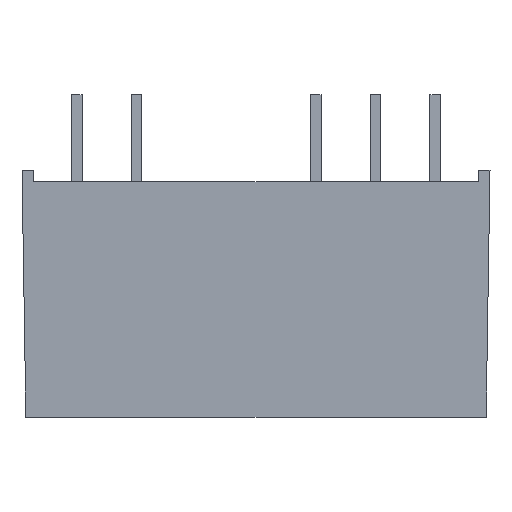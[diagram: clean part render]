
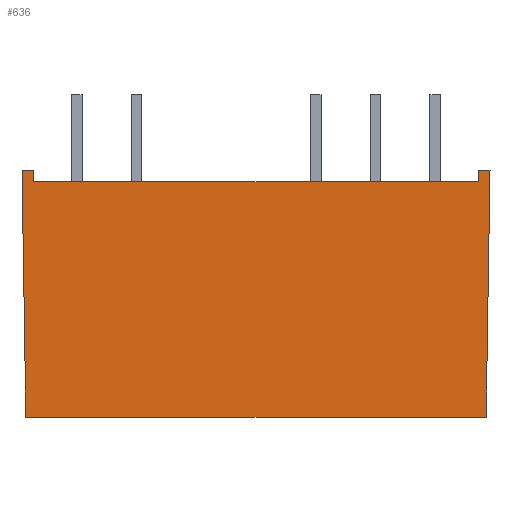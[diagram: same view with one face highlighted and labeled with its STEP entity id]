
A CAD part, front view. The second image highlights one B-rep face of the part: STEP entity #636.
In plain terms, the highlighted planar face has unit normal (0, -1, -0.016).
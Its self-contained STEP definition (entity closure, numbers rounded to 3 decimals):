
#50=FACE_OUTER_BOUND('',#90,.T.);
#90=EDGE_LOOP('',(#543,#544,#545,#546,#547,#548,#549,#550));
#158=LINE('',#968,#242);
#161=LINE('',#974,#245);
#162=LINE('',#977,#246);
#167=LINE('',#986,#251);
#168=LINE('',#989,#252);
#171=LINE('',#995,#255);
#172=LINE('',#997,#256);
#173=LINE('',#998,#257);
#242=VECTOR('',#795,18.884);
#245=VECTOR('',#800,0.5);
#246=VECTOR('',#803,0.5);
#251=VECTOR('',#810,0.5);
#252=VECTOR('',#813,0.5);
#255=VECTOR('',#818,10.503);
#256=VECTOR('',#819,19.57);
#257=VECTOR('',#820,10.503);
#303=VERTEX_POINT('',#961);
#306=VERTEX_POINT('',#966);
#308=VERTEX_POINT('',#972);
#309=VERTEX_POINT('',#976);
#312=VERTEX_POINT('',#984);
#313=VERTEX_POINT('',#988);
#315=VERTEX_POINT('',#994);
#316=VERTEX_POINT('',#996);
#382=EDGE_CURVE('',#303,#306,#158,.T.);
#385=EDGE_CURVE('',#306,#308,#161,.T.);
#386=EDGE_CURVE('',#309,#303,#162,.T.);
#391=EDGE_CURVE('',#308,#312,#167,.T.);
#392=EDGE_CURVE('',#313,#309,#168,.T.);
#395=EDGE_CURVE('',#315,#312,#171,.F.);
#396=EDGE_CURVE('',#315,#316,#172,.F.);
#397=EDGE_CURVE('',#316,#313,#173,.T.);
#543=ORIENTED_EDGE('',*,*,#386,.T.);
#544=ORIENTED_EDGE('',*,*,#382,.T.);
#545=ORIENTED_EDGE('',*,*,#385,.T.);
#546=ORIENTED_EDGE('',*,*,#391,.T.);
#547=ORIENTED_EDGE('',*,*,#395,.F.);
#548=ORIENTED_EDGE('',*,*,#396,.T.);
#549=ORIENTED_EDGE('',*,*,#397,.T.);
#550=ORIENTED_EDGE('',*,*,#392,.T.);
#601=PLANE('',#673);
#636=ADVANCED_FACE('',(#50),#601,.T.);
#673=AXIS2_PLACEMENT_3D('',#993,#816,#817);
#795=DIRECTION('',(-1.,0.,0.));
#800=DIRECTION('',(-0.016,-0.016,1.));
#803=DIRECTION('',(-0.016,0.016,-1.));
#810=DIRECTION('',(-1.,0.,0.));
#813=DIRECTION('',(-1.,0.,0.));
#816=DIRECTION('center_axis',(0.,-1.,-0.016));
#817=DIRECTION('ref_axis',(0.,0.016,-1.));
#818=DIRECTION('',(0.016,0.016,-1.));
#819=DIRECTION('',(-1.,0.,0.));
#820=DIRECTION('',(0.016,-0.016,1.));
#961=CARTESIAN_POINT('',(9.442,-3.742,10.));
#966=CARTESIAN_POINT('',(-9.442,-3.742,10.));
#968=CARTESIAN_POINT('',(4.975,-3.742,10.));
#972=CARTESIAN_POINT('',(-9.45,-3.75,10.5));
#974=CARTESIAN_POINT('',(-9.364,-3.664,5.041));
#976=CARTESIAN_POINT('',(9.45,-3.75,10.5));
#977=CARTESIAN_POINT('',(9.368,-3.668,5.256));
#984=CARTESIAN_POINT('',(-9.95,-3.75,10.5));
#986=CARTESIAN_POINT('',(-9.95,-3.75,10.5));
#988=CARTESIAN_POINT('',(9.95,-3.75,10.5));
#989=CARTESIAN_POINT('',(-9.95,-3.75,10.5));
#993=CARTESIAN_POINT('Origin',(9.95,-3.585,0.001));
#994=CARTESIAN_POINT('',(-9.785,-3.585,0.));
#995=CARTESIAN_POINT('',(-9.783,-3.583,-0.152));
#996=CARTESIAN_POINT('',(9.785,-3.585,0.));
#997=CARTESIAN_POINT('',(4.975,-3.585,0.));
#998=CARTESIAN_POINT('',(9.784,-3.584,-0.055));
